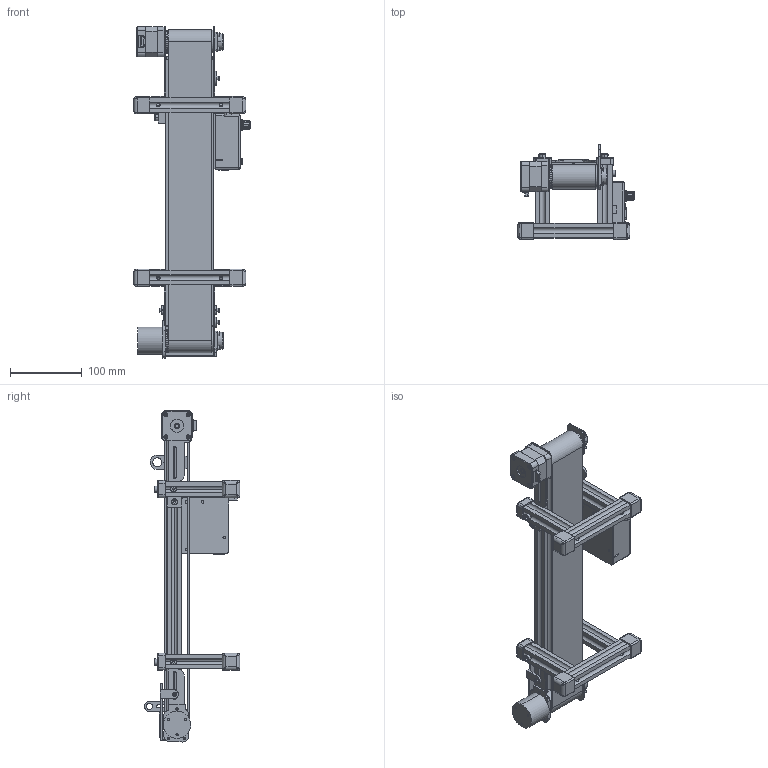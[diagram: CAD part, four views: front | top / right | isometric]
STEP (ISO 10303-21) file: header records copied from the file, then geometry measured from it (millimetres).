
FILE_DESCRIPTION (( 'STEP AP214' ), '1' );
FILE_NAME ('astorino_conveyor.STEP', '2024-05-02T08:42:11', ( '' ), ( '' ), 'SwSTEP 2.0', 'SolidWorks 2021', '' );
FILE_SCHEMA (( 'AUTOMOTIVE_DESIGN' ));
Length unit declared in the file: millimetre
Products named in the file (1): astorino_conveyor
Bounding box: 162.5 x 132.5 x 461.51 mm (x, y, z)
Surface area: 361052.7 mm2 (no closed solid volume)
Topology: 0 solids, 86 shells, 1216 faces, 3803 edges, 2578 vertices
Faces by surface type: plane 577, cylinder 403, bspline 151, cone 81, sphere 2, torus 2
Entity records: 62403 total; most frequent: CARTESIAN_POINT 16771, DIRECTION 6473, ORIENTED_EDGE 6235, EDGE_CURVE 3737, VERTEX_POINT 2576, AXIS2_PLACEMENT_3D 2235, VECTOR 2003, LINE 2003
